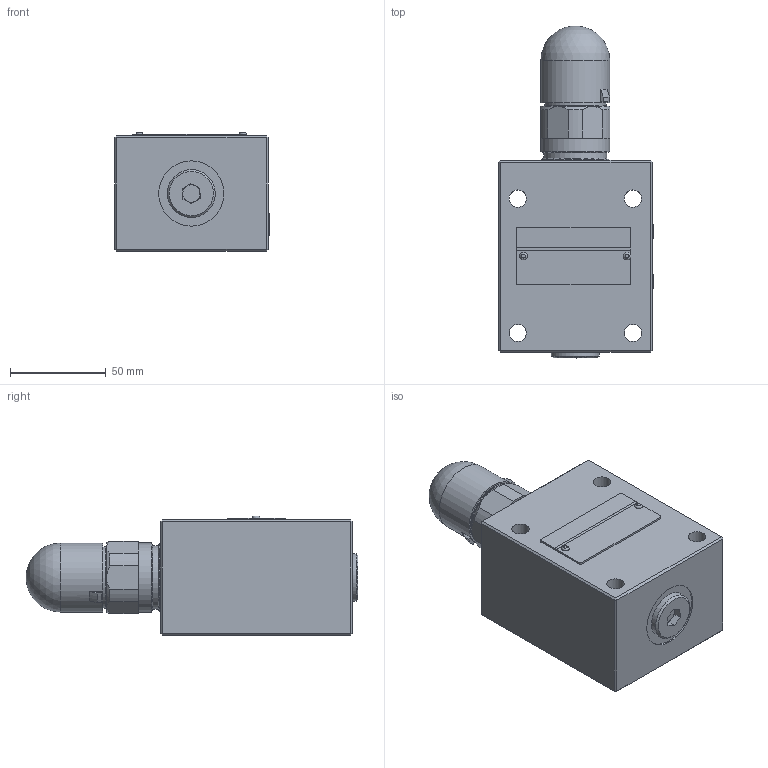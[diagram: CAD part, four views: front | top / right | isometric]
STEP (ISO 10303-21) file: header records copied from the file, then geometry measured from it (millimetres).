
FILE_DESCRIPTION(/* description */ (''),/* implementation_level */ '2;1');
FILE_NAME(/* name */ 'DBDS10P-1XJ直动型板式溢流阀.prt.stp',/* time_stamp */ '2022-03-30T20:14:42+08:00',/* author */ (''),/* organization */ (''),/* preprocessor_version */ 'ST-DEVELOPER v16.7',/* originating_system */ 'SIEMENS PLM Software NX 12.0',/* authorisation */ '');
FILE_SCHEMA (('AUTOMOTIVE_DESIGN { 1 0 10303 214 3 1 1 1 }'));
Length unit declared in the file: millimetre
Products named in the file (1): DBDS10P-1XJ直动型板式溢流阀
Bounding box: 80.7 x 172.92 x 62.41 mm (x, y, z)
Volume: 551439.8 mm3; surface area: 88970.8 mm2
Topology: 17 solids, 18 shells, 494 faces, 1135 edges, 696 vertices
Faces by surface type: plane 292, cylinder 113, cone 45, torus 20, bspline 14, extrusion 8, sphere 2
Full cylindrical faces by diameter (mm): 1 x1, 1.8 x2, 1.9 x4, 2 x1, 3.1 x2, 4.5 x4, 5.5 x4, 5.7 x1, 6 x2, 6.2 x1, 9 x5, 10 x3, 13 x2, 16.7 x2, 19.7 x1, 20 x1, 21.3 x1, 22.5 x2, 24.8 x1, 25 x1, 27.3 x2, 28 x3, 30 x2, 30.025 x1, 31 x1, 31.5 x1, 32 x6, 32.9 x1, 33.5 x11, 34 x2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
Entity records: 24438 total; most frequent: CARTESIAN_POINT 14404, DIRECTION 1940, ORIENTED_EDGE 1898, EDGE_CURVE 949, AXIS2_PLACEMENT_3D 759, VERTEX_POINT 645, EDGE_LOOP 643, ADVANCED_FACE 483
